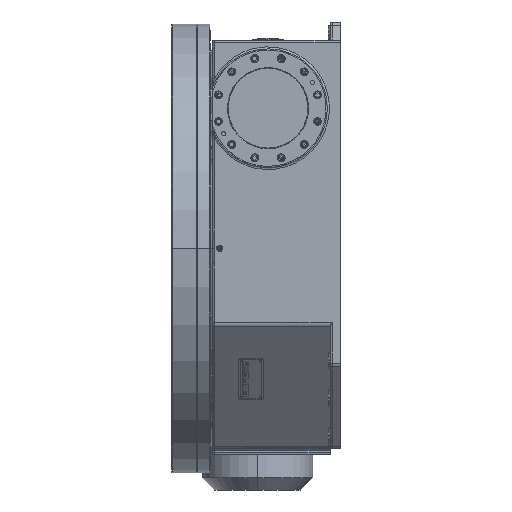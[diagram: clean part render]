
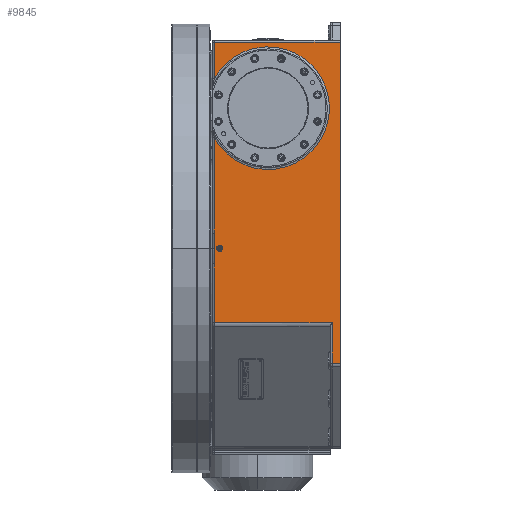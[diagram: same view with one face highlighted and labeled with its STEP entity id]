
A CAD part, left-side view. The second image highlights one B-rep face of the part: STEP entity #9845.
In plain terms, the highlighted planar face has unit normal (-1, 0, 0).
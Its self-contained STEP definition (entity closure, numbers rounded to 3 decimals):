
#467=DIRECTION('',(0.,0.,1.));
#468=VECTOR('',#467,800.984);
#469=CARTESIAN_POINT('',(-500.,0.,-285.984));
#470=LINE('',#469,#468);
#471=DIRECTION('',(0.,-1.,0.));
#472=VECTOR('',#471,20.);
#473=CARTESIAN_POINT('',(-500.,20.,-285.984));
#474=LINE('',#473,#472);
#475=DIRECTION('',(0.,0.,1.));
#476=VECTOR('',#475,100.991);
#477=CARTESIAN_POINT('',(-500.,20.,-285.984));
#478=LINE('',#477,#476);
#479=DIRECTION('',(0.,0.,1.));
#480=VECTOR('',#479,146.389);
#481=CARTESIAN_POINT('',(-500.,314.,-184.993));
#482=LINE('',#481,#480);
#483=CARTESIAN_POINT('',(-500.,314.,-38.604));
#484=CARTESIAN_POINT('',(-500.,314.,-35.983));
#485=CARTESIAN_POINT('',(-500.,314.014,-30.449));
#486=CARTESIAN_POINT('',(-500.,314.061,-21.312));
#487=CARTESIAN_POINT('',(-500.,314.11,-11.207));
#488=CARTESIAN_POINT('',(-500.,314.126,-3.841));
#489=CARTESIAN_POINT('',(-500.,314.126,
0.));
#491=CARTESIAN_POINT('',(-500.,314.126,
0.));
#492=CARTESIAN_POINT('',(-500.,314.125,6.681));
#493=CARTESIAN_POINT('',(-500.,314.073,19.797));
#494=CARTESIAN_POINT('',(-500.,313.999,32.417));
#495=CARTESIAN_POINT('',(-500.,314.,38.604));
#497=DIRECTION('',(0.,0.,1.));
#498=VECTOR('',#497,237.552);
#499=CARTESIAN_POINT('',(-500.,314.,38.604));
#500=LINE('',#499,#498);
#501=CARTESIAN_POINT('',(-500.,180.,350.));
#502=DIRECTION('',(-1.,0.,0.));
#503=DIRECTION('',(0.,0.876,-0.483));
#504=AXIS2_PLACEMENT_3D('',#501,#502,#503);
#506=DIRECTION('',(0.,0.,1.));
#507=VECTOR('',#506,91.156);
#508=CARTESIAN_POINT('',(-500.,314.,423.844));
#509=LINE('',#508,#507);
#510=DIRECTION('',(0.,-1.,0.));
#511=VECTOR('',#510,314.);
#512=CARTESIAN_POINT('',(-500.,314.,515.));
#513=LINE('',#512,#511);
#514=CARTESIAN_POINT('',(-500.,301.,0.));
#515=DIRECTION('',(-1.,0.,0.));
#516=DIRECTION('',(0.,-1.,0.));
#517=AXIS2_PLACEMENT_3D('',#514,#515,#516);
#519=CARTESIAN_POINT('',(-500.,301.,0.));
#520=DIRECTION('',(-1.,0.,0.));
#521=DIRECTION('',(0.,1.,0.));
#522=AXIS2_PLACEMENT_3D('',#519,#520,#521);
#4321=DIRECTION('',(0.,-1.,0.));
#4322=VECTOR('',#4321,294.);
#4323=CARTESIAN_POINT('',(-500.,314.,-184.993));
#4324=LINE('',#4323,#4322);
#5796=CARTESIAN_POINT('',(-500.,314.,423.844));
#8253=CARTESIAN_POINT('',(-500.,308.5,0.));
#8254=CARTESIAN_POINT('',(-500.,293.5,0.));
#8255=VERTEX_POINT('',#8253);
#8256=VERTEX_POINT('',#8254);
#8265=CARTESIAN_POINT('',(-500.,0.,-285.984));
#8266=CARTESIAN_POINT('',(-500.,0.,515.));
#8267=VERTEX_POINT('',#8265);
#8268=VERTEX_POINT('',#8266);
#8958=CARTESIAN_POINT('',(-500.,20.,-285.984));
#8959=CARTESIAN_POINT('',(-500.,20.,-184.993));
#8960=VERTEX_POINT('',#8958);
#8961=VERTEX_POINT('',#8959);
#9020=CARTESIAN_POINT('',(-500.,314.,515.));
#9022=VERTEX_POINT('',#9020);
#9180=CARTESIAN_POINT('',(-500.,314.,-184.993));
#9181=VERTEX_POINT('',#9180);
#9184=CARTESIAN_POINT('',(-500.,314.,
-38.604));
#9185=VERTEX_POINT('',#9184);
#9187=VERTEX_POINT('',#489);
#9189=VERTEX_POINT('',#495);
#9192=CARTESIAN_POINT('',(-500.,314.,276.156));
#9193=VERTEX_POINT('',#9192);
#9199=VERTEX_POINT('',#5796);
#9810=CARTESIAN_POINT('',(-500.,-5.,-291.443));
#9811=DIRECTION('',(-1.,0.,0.));
#9812=DIRECTION('',(0.,0.,1.));
#9813=AXIS2_PLACEMENT_3D('',#9810,#9811,#9812);
#9814=PLANE('',#9813);
#9816=ORIENTED_EDGE('',*,*,#9815,.F.);
#9818=ORIENTED_EDGE('',*,*,#9817,.F.);
#9820=ORIENTED_EDGE('',*,*,#9819,.T.);
#9822=ORIENTED_EDGE('',*,*,#9821,.F.);
#9824=ORIENTED_EDGE('',*,*,#9823,.T.);
#9826=ORIENTED_EDGE('',*,*,#9825,.T.);
#9828=ORIENTED_EDGE('',*,*,#9827,.T.);
#9830=ORIENTED_EDGE('',*,*,#9829,.T.);
#9832=ORIENTED_EDGE('',*,*,#9831,.T.);
#9834=ORIENTED_EDGE('',*,*,#9833,.T.);
#9836=ORIENTED_EDGE('',*,*,#9835,.T.);
#9837=EDGE_LOOP('',(#9816,#9818,#9820,#9822,#9824,#9826,#9828,#9830,#9832,#9834,
#9836));
#9838=FACE_OUTER_BOUND('',#9837,.F.);
#9840=ORIENTED_EDGE('',*,*,#9839,.T.);
#9842=ORIENTED_EDGE('',*,*,#9841,.T.);
#9843=EDGE_LOOP('',(#9840,#9842));
#9844=FACE_BOUND('',#9843,.F.);
#9845=ADVANCED_FACE('',(#9838,#9844),#9814,.T.);
#490=B_SPLINE_CURVE_WITH_KNOTS('',3,(#483,#484,#485,#486,#487,#488,#489),
.UNSPECIFIED.,.F.,.F.,(4,1,1,1,4),(0.,0.25,0.5,0.75,1.),
.UNSPECIFIED.);
#496=B_SPLINE_CURVE_WITH_KNOTS('',3,(#491,#492,#493,#494,#495),.UNSPECIFIED.,
.F.,.F.,(4,1,4),(0.,0.5,1.),.UNSPECIFIED.);
#505=CIRCLE('',#504,153.);
#518=CIRCLE('',#517,7.5);
#523=CIRCLE('',#522,7.5);
#9815=EDGE_CURVE('',#8267,#8268,#470,.T.);
#9817=EDGE_CURVE('',#8960,#8267,#474,.T.);
#9819=EDGE_CURVE('',#8960,#8961,#478,.T.);
#9821=EDGE_CURVE('',#9181,#8961,#4324,.T.);
#9823=EDGE_CURVE('',#9181,#9185,#482,.T.);
#9825=EDGE_CURVE('',#9185,#9187,#490,.T.);
#9827=EDGE_CURVE('',#9187,#9189,#496,.T.);
#9829=EDGE_CURVE('',#9189,#9193,#500,.T.);
#9831=EDGE_CURVE('',#9193,#9199,#505,.T.);
#9833=EDGE_CURVE('',#9199,#9022,#509,.T.);
#9835=EDGE_CURVE('',#9022,#8268,#513,.T.);
#9839=EDGE_CURVE('',#8256,#8255,#518,.T.);
#9841=EDGE_CURVE('',#8255,#8256,#523,.T.);
